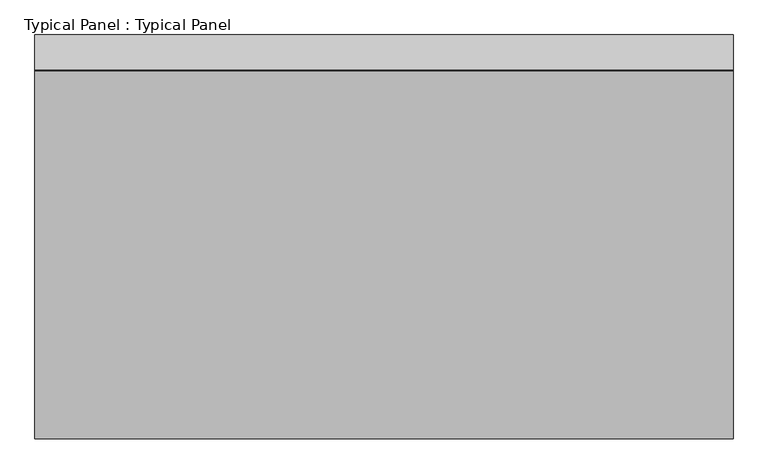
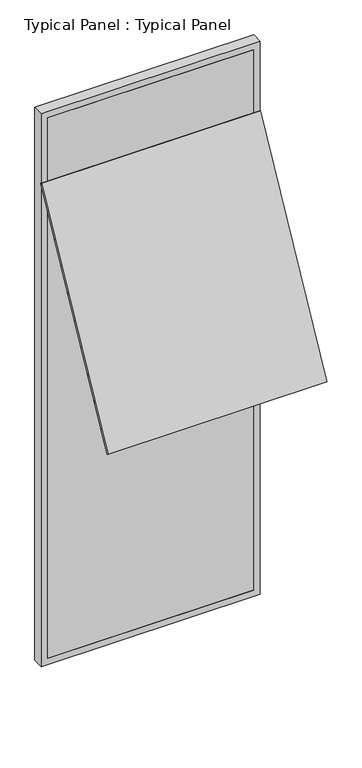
"""IFC4 building model written with IfcOpenShell, lengths in millimetres: plate geometry, Typical Panel : Typical Panel."""

from ifc_helpers import new_model, si_unit, frame, origin, place, context, project, spatial, polyline, outline, extrude, source, transform, mapped, element, save


def typical_panel_typical_panel_e5a42394(model_context):
    return source(origin(), model_context, "Body", "SweptSolid", [
        extrude(outline(polyline([(0.0, -10.0), (0.0, 0.0), (1500.0, 0.0), (1500.0, -10.0), (0.0, -10.0)])), frame((750.0, -793.7122255, 2016.648044), z_axis=(0.0, 0.46947156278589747, 0.8829475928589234), x_axis=(-1.0, 0.0, 0.0)), (0.0, 0.0, 1.0), 1680.0),
        extrude(outline(polyline([(0.0, -750.0), (0.0, 750.0), (4000.0, 750.0), (4000.0, -750.0), (0.0, -750.0)]), holes=[polyline([(45.0, 705.0), (45.0, -705.0), (3955.0, -705.0), (3955.0, 705.0), (45.0, 705.0)])]), frame((0.0, -1.5797986, 0.0), z_axis=(0.0, 1.0, 0.0), x_axis=(0.0, 0.0, 1.0)), (0.0, 0.0, 1.0), 75.0),
        extrude(outline(polyline([(705.0, -1.5797986), (-705.0, -1.5797986), (-705.0, 13.4202014), (705.0, 13.4202014), (705.0, -1.5797986)])), frame((0.0, 0.0, 45.0), z_axis=(0.0, 0.0, 1.0), x_axis=(1.0, 0.0, 0.0)), (0.0, 0.0, 1.0), 3910.0),
    ])


if __name__ == "__main__":
    model = new_model("IFC4")
    model_context = context("Model", 3, world=origin())
    ifc_project = project(units=[si_unit("LENGTHUNIT", "METRE", prefix="MILLI")], contexts=[model_context])
    site = spatial("IfcSite", under=ifc_project)
    building = spatial("IfcBuilding", under=site)
    placement = place(None, origin())
    typical_panel_typical_panel_shape = typical_panel_typical_panel_e5a42394(model_context)
    element("IfcPlate", 1, ObjectType="Typical Panel : Typical Panel", at=placement, inside=building, context=model_context, shape_type="MappedRepresentation", body=[
        mapped(typical_panel_typical_panel_shape, transform((0.0, 0.0, 0.0), x_axis=(1.0, 0.0, 0.0), y_axis=(0.0, 1.0, 0.0), z_axis=(0.0, 0.0, 1.0))),
    ])
    save(model, "model.ifc")
